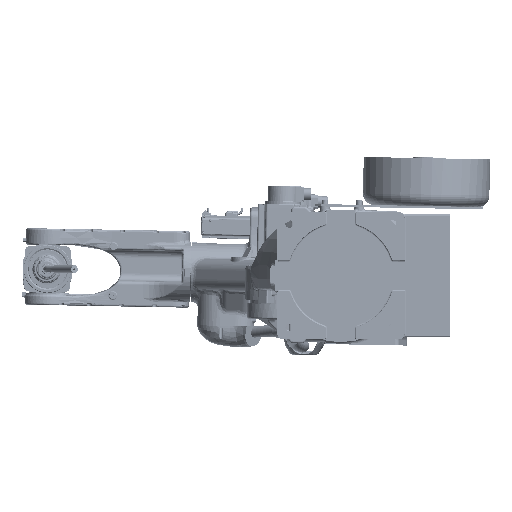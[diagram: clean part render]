
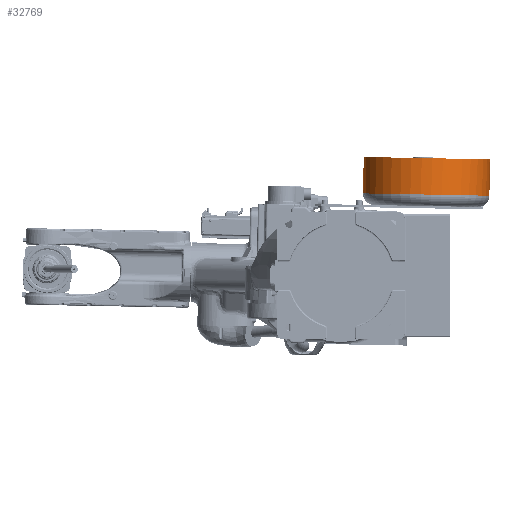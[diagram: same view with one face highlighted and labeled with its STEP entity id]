
A CAD part, front view. The second image highlights one B-rep face of the part: STEP entity #32769.
In plain terms, the highlighted cylindrical face has radius 165 mm (diameter 330 mm), a full revolution.
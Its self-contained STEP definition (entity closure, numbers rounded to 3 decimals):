
#32769=ADVANCED_FACE('',(#36448,#36449),#34957,.T.);
#34957=CYLINDRICAL_SURFACE('',#130000,165.);
#36448=FACE_BOUND('',#43746,.T.);
#36449=FACE_BOUND('',#43747,.T.);
#43746=EDGE_LOOP('',(#74883));
#43747=EDGE_LOOP('',(#74884,#74885,#74886,#74887));
#74883=ORIENTED_EDGE('',*,*,#101635,.F.);
#74884=ORIENTED_EDGE('',*,*,#101172,.F.);
#74885=ORIENTED_EDGE('',*,*,#101634,.F.);
#74886=ORIENTED_EDGE('',*,*,#101636,.F.);
#74887=ORIENTED_EDGE('',*,*,#101637,.T.);
#85585=VERTEX_POINT('',#313312);
#85588=VERTEX_POINT('',#313317);
#85840=VERTEX_POINT('',#318877);
#85841=VERTEX_POINT('',#318881);
#85842=VERTEX_POINT('',#318884);
#101172=EDGE_CURVE('',#85588,#85585,#107680,.T.);
#101634=EDGE_CURVE('',#85840,#85588,#112723,.T.);
#101635=EDGE_CURVE('',#85841,#85841,#107832,.T.);
#101636=EDGE_CURVE('',#85842,#85840,#107833,.T.);
#101637=EDGE_CURVE('',#85842,#85585,#112724,.T.);
#107680=CIRCLE('',#129717,165.);
#107832=CIRCLE('',#129997,165.);
#107833=CIRCLE('',#129999,165.);
#112723=LINE('',#318878,#117693);
#112724=LINE('',#318885,#117694);
#117693=VECTOR('',#156100,1.);
#117694=VECTOR('',#156109,1.);
#129717=AXIS2_PLACEMENT_3D('',#313318,#155396,#155397);
#129997=AXIS2_PLACEMENT_3D('',#318880,#156103,#156104);
#129999=AXIS2_PLACEMENT_3D('',#318883,#156107,#156108);
#130000=AXIS2_PLACEMENT_3D('',#318886,#156110,#156111);
#155396=DIRECTION('',(0.018,0.,1.));
#155397=DIRECTION('',(0.,1.,0.));
#156100=DIRECTION('',(0.018,0.,1.));
#156103=DIRECTION('',(-0.018,0.,-1.));
#156104=DIRECTION('',(1.,0.,-0.018));
#156107=DIRECTION('',(0.018,0.,1.));
#156108=DIRECTION('',(0.,1.,0.));
#156109=DIRECTION('',(0.018,0.,1.));
#156110=DIRECTION('',(0.018,0.,1.));
#156111=DIRECTION('',(0.,-1.,0.));
#313312=CARTESIAN_POINT('',(450.505,373.561,298.902));
#313317=CARTESIAN_POINT('',(326.182,474.252,301.177));
#313318=CARTESIAN_POINT('',(297.542,311.758,301.7));
#318877=CARTESIAN_POINT('',(324.536,474.252,211.192));
#318878=CARTESIAN_POINT('',(325.313,474.252,253.684));
#318880=CARTESIAN_POINT('',(295.804,311.758,206.716));
#318881=CARTESIAN_POINT('',(460.777,311.758,203.698));
#318883=CARTESIAN_POINT('',(295.896,311.758,211.715));
#318884=CARTESIAN_POINT('',(448.858,373.561,208.917));
#318885=CARTESIAN_POINT('',(449.681,373.561,253.91));
#318886=CARTESIAN_POINT('',(295.804,311.758,206.716));
